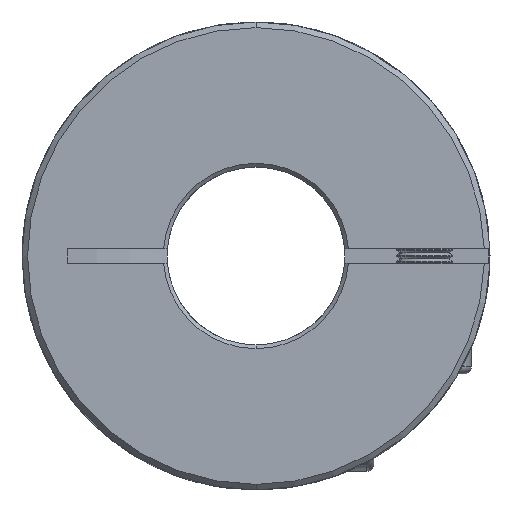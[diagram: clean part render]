
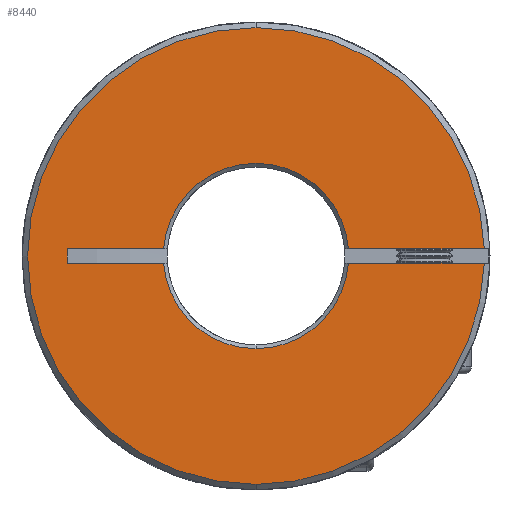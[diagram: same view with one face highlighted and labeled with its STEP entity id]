
A CAD part, front view. The second image highlights one B-rep face of the part: STEP entity #8440.
In plain terms, the highlighted planar face has unit normal (0, -1, 0).
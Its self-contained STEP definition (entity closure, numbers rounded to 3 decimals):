
#216 = DIRECTION ( 'NONE',  ( 1., 0., 0. ) ) ;
#217 = CIRCLE ( 'NONE', #15907, 24.4 ) ;
#369 = EDGE_CURVE ( 'NONE', #4023, #8752, #11306, .T. ) ;
#451 = DIRECTION ( 'NONE',  ( 0., 1., 0. ) ) ;
#1570 = EDGE_CURVE ( 'NONE', #11311, #15641, #2447, .T. ) ;
#1769 = ORIENTED_EDGE ( 'NONE', *, *, #16632, .T. ) ;
#1785 = AXIS2_PLACEMENT_3D ( 'NONE', #4852, #16961, #7607 ) ;
#2339 = AXIS2_PLACEMENT_3D ( 'NONE', #10931, #2882, #5587 ) ;
#2447 = LINE ( 'NONE', #14129, #8974 ) ;
#2504 = CARTESIAN_POINT ( 'NONE',  ( 0., 0., -24.4 ) ) ;
#2860 = EDGE_CURVE ( 'NONE', #7091, #16886, #5561, .T. ) ;
#2864 = EDGE_CURVE ( 'NONE', #14752, #8752, #7646, .T. ) ;
#2882 = DIRECTION ( 'NONE',  ( 0., 1., 0. ) ) ;
#2960 = CARTESIAN_POINT ( 'NONE',  ( -50., 0., -0.75 ) ) ;
#3028 = DIRECTION ( 'NONE',  ( 1., 0., 0. ) ) ;
#3270 = ORIENTED_EDGE ( 'NONE', *, *, #2860, .T. ) ;
#3750 = AXIS2_PLACEMENT_3D ( 'NONE', #8318, #13733, #11027 ) ;
#4023 = VERTEX_POINT ( 'NONE', #2504 ) ;
#4278 = VECTOR ( 'NONE', #3028, 1000. ) ;
#4644 = AXIS2_PLACEMENT_3D ( 'NONE', #16381, #451, #8344 ) ;
#4650 = ORIENTED_EDGE ( 'NONE', *, *, #2864, .F. ) ;
#4852 = CARTESIAN_POINT ( 'NONE',  ( 0., 0., 0. ) ) ;
#4939 = CIRCLE ( 'NONE', #3750, 9.9 ) ;
#5115 = CARTESIAN_POINT ( 'NONE',  ( 0., 0., 0. ) ) ;
#5134 = CARTESIAN_POINT ( 'NONE',  ( 24.388, 0., 0.75 ) ) ;
#5305 = DIRECTION ( 'NONE',  ( 0., -1., 0. ) ) ;
#5424 = EDGE_CURVE ( 'NONE', #16886, #10620, #11692, .T. ) ;
#5551 = EDGE_CURVE ( 'NONE', #15641, #7091, #12957, .T. ) ;
#5552 = DIRECTION ( 'NONE',  ( 0., -1., 0. ) ) ;
#5561 = CIRCLE ( 'NONE', #1785, 9.9 ) ;
#5587 = DIRECTION ( 'NONE',  ( 0., 0., 1. ) ) ;
#5629 = EDGE_LOOP ( 'NONE', ( #4650, #17449, #12350, #17437, #5805, #12416, #3270, #13080, #1769, #11317, #15796 ) ) ;
#5805 = ORIENTED_EDGE ( 'NONE', *, *, #1570, .T. ) ;
#5817 = CARTESIAN_POINT ( 'NONE',  ( -50., 0., 0.75 ) ) ;
#5938 = DIRECTION ( 'NONE',  ( 1., 0., 0. ) ) ;
#6053 = EDGE_CURVE ( 'NONE', #7643, #6554, #4939, .T. ) ;
#6554 = VERTEX_POINT ( 'NONE', #12529 ) ;
#7091 = VERTEX_POINT ( 'NONE', #15289 ) ;
#7142 = AXIS2_PLACEMENT_3D ( 'NONE', #9630, #5552, #11054 ) ;
#7560 = CARTESIAN_POINT ( 'NONE',  ( 9.872, 0., 0.75 ) ) ;
#7607 = DIRECTION ( 'NONE',  ( 0., 0., 1. ) ) ;
#7643 = VERTEX_POINT ( 'NONE', #15454 ) ;
#7646 = LINE ( 'NONE', #7726, #10796 ) ;
#7673 = CARTESIAN_POINT ( 'NONE',  ( 0., 0., 24.4 ) ) ;
#7726 = CARTESIAN_POINT ( 'NONE',  ( -50., 0., -0.75 ) ) ;
#8040 = FACE_OUTER_BOUND ( 'NONE', #5629, .T. ) ;
#8070 = EDGE_CURVE ( 'NONE', #11311, #6554, #8687, .T. ) ;
#8286 = DIRECTION ( 'NONE',  ( 0., -1., 0. ) ) ;
#8318 = CARTESIAN_POINT ( 'NONE',  ( 0., 0., 0. ) ) ;
#8344 = DIRECTION ( 'NONE',  ( 0., 0., 1. ) ) ;
#8440 = ADVANCED_FACE ( 'NONE', ( #8040 ), #15066, .F. ) ;
#8687 = LINE ( 'NONE', #2960, #4278 ) ;
#8752 = VERTEX_POINT ( 'NONE', #14987 ) ;
#8974 = VECTOR ( 'NONE', #15632, 1000. ) ;
#9399 = DIRECTION ( 'NONE',  ( 0., 0., 1. ) ) ;
#9458 = DIRECTION ( 'NONE',  ( 0., 0., 1. ) ) ;
#9630 = CARTESIAN_POINT ( 'NONE',  ( 0., 0., 0. ) ) ;
#10209 = VECTOR ( 'NONE', #216, 1000. ) ;
#10620 = VERTEX_POINT ( 'NONE', #5134 ) ;
#10796 = VECTOR ( 'NONE', #15709, 1000. ) ;
#10931 = CARTESIAN_POINT ( 'NONE',  ( 0., 0., 0. ) ) ;
#10994 = CARTESIAN_POINT ( 'NONE',  ( 9.872, 0., -0.75 ) ) ;
#11027 = DIRECTION ( 'NONE',  ( 0., 0., 1. ) ) ;
#11044 = CARTESIAN_POINT ( 'NONE',  ( -50., 0., 0.75 ) ) ;
#11054 = DIRECTION ( 'NONE',  ( 0., 0., 1. ) ) ;
#11306 = CIRCLE ( 'NONE', #7142, 24.4 ) ;
#11311 = VERTEX_POINT ( 'NONE', #13599 ) ;
#11317 = ORIENTED_EDGE ( 'NONE', *, *, #13957, .T. ) ;
#11585 = EDGE_CURVE ( 'NONE', #14752, #7643, #15995, .T. ) ;
#11692 = LINE ( 'NONE', #11044, #10209 ) ;
#12350 = ORIENTED_EDGE ( 'NONE', *, *, #6053, .T. ) ;
#12416 = ORIENTED_EDGE ( 'NONE', *, *, #5551, .T. ) ;
#12529 = CARTESIAN_POINT ( 'NONE',  ( -9.872, 0., -0.75 ) ) ;
#12957 = LINE ( 'NONE', #5817, #14850 ) ;
#13080 = ORIENTED_EDGE ( 'NONE', *, *, #5424, .T. ) ;
#13189 = CARTESIAN_POINT ( 'NONE',  ( -20.149, 0., 0.75 ) ) ;
#13427 = AXIS2_PLACEMENT_3D ( 'NONE', #16216, #8286, #9458 ) ;
#13432 = CIRCLE ( 'NONE', #13427, 24.4 ) ;
#13599 = CARTESIAN_POINT ( 'NONE',  ( -20.149, 0., -0.75 ) ) ;
#13733 = DIRECTION ( 'NONE',  ( 0., 1., 0. ) ) ;
#13957 = EDGE_CURVE ( 'NONE', #15558, #4023, #217, .T. ) ;
#14129 = CARTESIAN_POINT ( 'NONE',  ( -20.149, 0., -0.75 ) ) ;
#14752 = VERTEX_POINT ( 'NONE', #10994 ) ;
#14850 = VECTOR ( 'NONE', #5938, 1000. ) ;
#14987 = CARTESIAN_POINT ( 'NONE',  ( 24.388, 0., -0.75 ) ) ;
#15066 = PLANE ( 'NONE',  #4644 ) ;
#15289 = CARTESIAN_POINT ( 'NONE',  ( -9.872, 0., 0.75 ) ) ;
#15454 = CARTESIAN_POINT ( 'NONE',  ( 0., 0., -9.9 ) ) ;
#15558 = VERTEX_POINT ( 'NONE', #7673 ) ;
#15632 = DIRECTION ( 'NONE',  ( 0., 0., 1. ) ) ;
#15641 = VERTEX_POINT ( 'NONE', #13189 ) ;
#15709 = DIRECTION ( 'NONE',  ( 1., 0., 0. ) ) ;
#15796 = ORIENTED_EDGE ( 'NONE', *, *, #369, .T. ) ;
#15907 = AXIS2_PLACEMENT_3D ( 'NONE', #5115, #5305, #9399 ) ;
#15995 = CIRCLE ( 'NONE', #2339, 9.9 ) ;
#16216 = CARTESIAN_POINT ( 'NONE',  ( 0., 0., 0. ) ) ;
#16381 = CARTESIAN_POINT ( 'NONE',  ( -50., 0., 32.858 ) ) ;
#16632 = EDGE_CURVE ( 'NONE', #10620, #15558, #13432, .T. ) ;
#16886 = VERTEX_POINT ( 'NONE', #7560 ) ;
#16961 = DIRECTION ( 'NONE',  ( 0., 1., 0. ) ) ;
#17437 = ORIENTED_EDGE ( 'NONE', *, *, #8070, .F. ) ;
#17449 = ORIENTED_EDGE ( 'NONE', *, *, #11585, .T. ) ;
